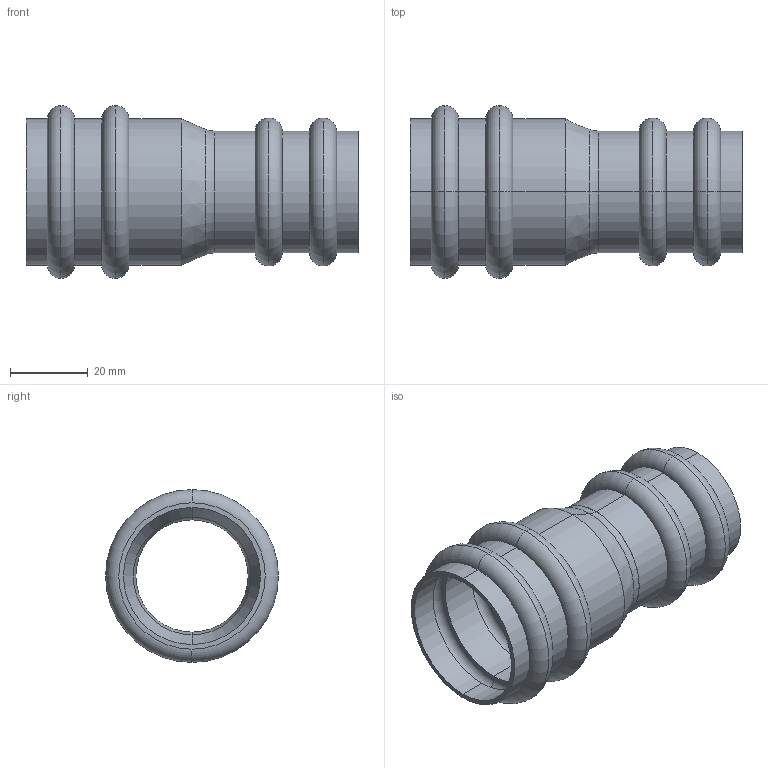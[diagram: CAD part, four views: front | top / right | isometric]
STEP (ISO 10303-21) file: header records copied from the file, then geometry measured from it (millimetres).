
FILE_DESCRIPTION(('starvars output'),'1');
FILE_NAME('cv20240422105410000012012.stp','10:54:11 2024/04/22',('Thomas Industrial Network Germany GmbH'),(' '),'Spatial InterOp 3D',' ',' ');
FILE_SCHEMA(('AUTOMOTIVE_DESIGN { 1 0 10303 214 3 1 1 }'));
Length unit declared in the file: millimetre
Products named in the file (1): 1
Bounding box: 85.5 x 44.5 x 44.5 mm (x, y, z)
Volume: 14033.3 mm3; surface area: 23086.4 mm2
Topology: 1 solids, 1 shells, 84 faces, 168 edges, 104 vertices
Faces by surface type: torus 36, cylinder 24, plane 20, cone 4
Entity records: 2940 total; most frequent: DIRECTION 478, CARTESIAN_POINT 357, ORIENTED_EDGE 336, AXIS2_PLACEMENT_3D 225, EDGE_CURVE 168, CIRCLE 140, EDGE_LOOP 104, VERTEX_POINT 104
